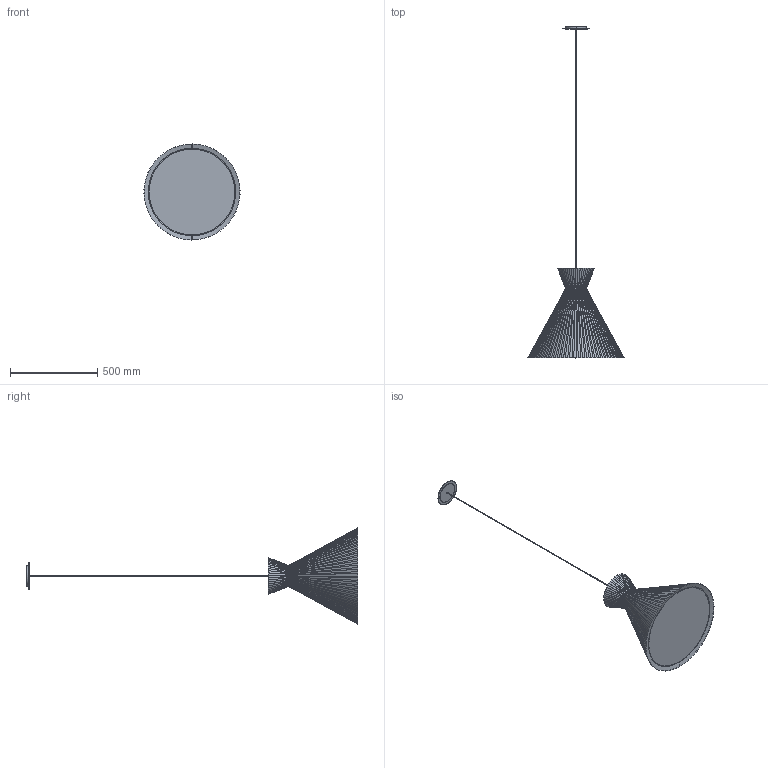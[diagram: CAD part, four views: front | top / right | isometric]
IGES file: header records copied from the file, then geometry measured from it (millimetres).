
Start section: SolidWorks IGES file using analytic representation for surfaces
Global section: file name: C:\Users\libre2.DOMINIO\Desktop\CARPYEN\3D\NAHTRANG\mandarina\mandarina 55\mandarina 55.IGS; native system: SolidWorks 2014; preprocessor: SolidWorks 2014; author: libre2; date: 160906.115612; units: millimetre
Bounding box: 549.56 x 1898.31 x 549.95 mm (x, y, z)
Surface area: 1577894.5 mm2 (no closed solid volume)
Topology: 0 solids, 0 shells, 524 faces, 6946 edges, 6946 vertices
Faces by surface type: bspline 338, revolution 186
